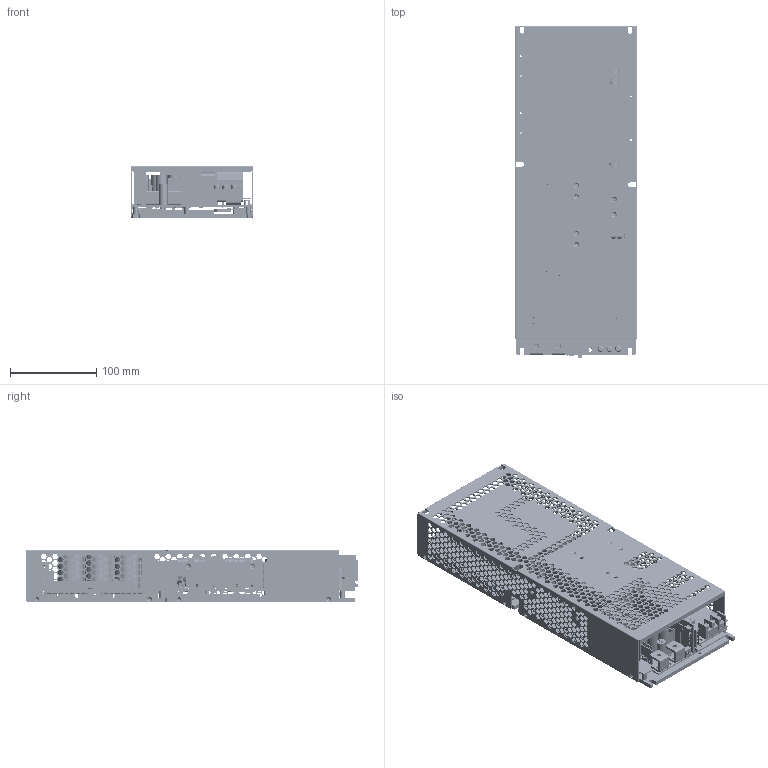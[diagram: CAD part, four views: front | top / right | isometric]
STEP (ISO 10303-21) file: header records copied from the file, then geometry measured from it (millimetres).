
FILE_DESCRIPTION(('Creo Elements/Direct Modeling STEP Export'),'2;1');
FILE_NAME('PHP-3500.stp','2023-09-15T15:08:10',(''),(''),'PTC Creo Elements/Direct Modeling STEP processor for AP214 (Solid Model)','PTC Creo Elements/Direct Modeling 19.0 09-May-2014 (C) Parametric Technology GmbH','');
FILE_SCHEMA(('AUTOMOTIVE_DESIGN { 1 0 10303 214 1 1 1 1 }'));
Length unit declared in the file: millimetre
Products named in the file (1249): 帽套; P4-17010_ASM.ASM; HS-204_STP.ASM; HS-204.stp; CYLINDER_PRT.PRT; 849232104_ASM.ASM.7; EXTRUDED-2009_PRT.PRT; 879750992_ASM.ASM; 1DL5-PQ-4040-12P-VT_ASM.PRT; C1002_ASM.ASM; PCB_ASM.ASM; PQ4040_STEP.ASM; PQ40.stp.1; a1; a3; 零件; AL-6; BOSS.7.1.1.1; 鋁板; 水冷板1; 上蓋.1.5.2; 上蓋.1.5.1.1; sp610-610; padd.1; padd; p8; p6; p5.2; p5.1.1.1; p5.1.1; p5.1; p5; p3.1.1; p3.1; p2; p1.2; p1; mylar.1; mylar; cu2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
Assembly tree (2405 placements, depth 9):
  零件
    a3
      a1
      PQ40.stp.1
        PQ4040_STEP.ASM
          PCB_ASM.ASM
            C1002_ASM.ASM
              1DL5-PQ-4040-12P-VT_ASM.PRT  x2
              879750992_ASM.ASM
                EXTRUDED-2009_PRT.PRT
              849232104_ASM.ASM.7  x12
                CYLINDER_PRT.PRT
      HS-204.stp
        HS-204_STP.ASM
          P4-17010_ASM.ASM
      帽套
  鋁板
    BOSS.7.1.1.1  x7
    AL-6
  水冷板1
  上蓋.1.5.2
    上蓋.1.5.2
  上蓋.1.5.1.1
    上蓋.1.5.2
Bounding box: 141.4 x 384.34 x 60 mm (x, y, z)
Volume: 1236629.6 mm3; surface area: 986482.4 mm2
Topology: 331 solids, 333 shells, 29265 faces, 85054 edges, 56561 vertices
Faces by surface type: plane 27766, cylinder 1279, cone 166, torus 54
Entity records: 416358 total; most frequent: CARTESIAN_POINT 69716, ORIENTED_EDGE 67742, DIRECTION 61807, EDGE_CURVE 33874, VECTOR 32255, LINE 32255, VERTEX_POINT 22559, AXIS2_PLACEMENT_3D 14776
